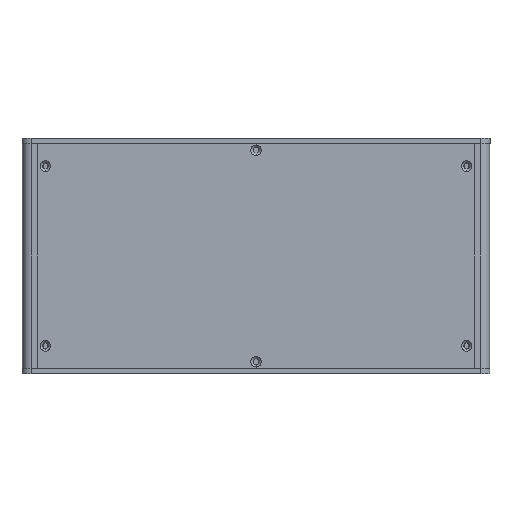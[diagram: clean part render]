
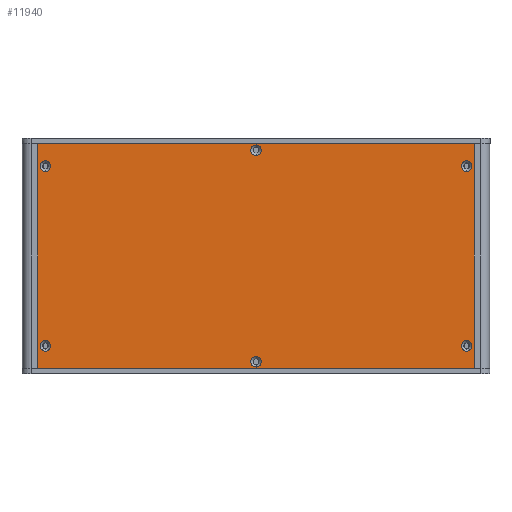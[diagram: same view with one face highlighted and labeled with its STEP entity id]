
A CAD part, front view. The second image highlights one B-rep face of the part: STEP entity #11940.
In plain terms, the highlighted planar face has unit normal (0, -1, 0) as drawn and (0, 1, 0) by its records, which use the part's own axes.
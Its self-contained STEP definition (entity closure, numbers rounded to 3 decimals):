
#111 = EDGE_CURVE ( 'NONE', #2191, #6935, #9642, .T. ) ;
#146 = ORIENTED_EDGE ( 'NONE', *, *, #111, .T. ) ;
#150 = VERTEX_POINT ( 'NONE', #3463 ) ;
#151 = DIRECTION ( 'NONE',  ( 0., -1., 0. ) ) ;
#170 = AXIS2_PLACEMENT_3D ( 'NONE', #10919, #595, #9823 ) ;
#177 = CIRCLE ( 'NONE', #1556, 2.8 ) ;
#346 = EDGE_CURVE ( 'NONE', #1609, #8473, #5801, .T. ) ;
#540 = DIRECTION ( 'NONE',  ( 0., 0., 1. ) ) ;
#583 = CIRCLE ( 'NONE', #8569, 2.8 ) ;
#595 = DIRECTION ( 'NONE',  ( 0., -1., 0. ) ) ;
#608 = CARTESIAN_POINT ( 'NONE',  ( -116.6, 0.75, -120. ) ) ;
#632 = DIRECTION ( 'NONE',  ( 0., -1., 0. ) ) ;
#657 = CIRCLE ( 'NONE', #7479, 2.8 ) ;
#671 = CARTESIAN_POINT ( 'NONE',  ( 112.5, 0.75, -14.8 ) ) ;
#676 = DIRECTION ( 'NONE',  ( 0., -1., 0. ) ) ;
#728 = VECTOR ( 'NONE', #7649, 1000. ) ;
#918 = CARTESIAN_POINT ( 'NONE',  ( 112.5, 0.75, -105.2 ) ) ;
#943 = CARTESIAN_POINT ( 'NONE',  ( 112.5, 0.75, -12. ) ) ;
#1085 = CARTESIAN_POINT ( 'NONE',  ( -112.5, 0.75, -110.8 ) ) ;
#1242 = EDGE_CURVE ( 'NONE', #6972, #9282, #10689, .T. ) ;
#1373 = VERTEX_POINT ( 'NONE', #608 ) ;
#1400 = VERTEX_POINT ( 'NONE', #671 ) ;
#1479 = VERTEX_POINT ( 'NONE', #1085 ) ;
#1483 = CARTESIAN_POINT ( 'NONE',  ( -116.6, 0.75, -120. ) ) ;
#1517 = EDGE_CURVE ( 'NONE', #3462, #7808, #3379, .T. ) ;
#1556 = AXIS2_PLACEMENT_3D ( 'NONE', #11326, #10407, #2030 ) ;
#1559 = DIRECTION ( 'NONE',  ( 0., 0., 1. ) ) ;
#1577 = EDGE_LOOP ( 'NONE', ( #3882, #6238 ) ) ;
#1609 = VERTEX_POINT ( 'NONE', #918 ) ;
#1729 = FACE_BOUND ( 'NONE', #1577, .T. ) ;
#2018 = EDGE_LOOP ( 'NONE', ( #7152, #8730 ) ) ;
#2030 = DIRECTION ( 'NONE',  ( 0., 0., 1. ) ) ;
#2155 = AXIS2_PLACEMENT_3D ( 'NONE', #1483, #5199, #10278 ) ;
#2191 = VERTEX_POINT ( 'NONE', #8478 ) ;
#2362 = DIRECTION ( 'NONE',  ( 0., 0., 1. ) ) ;
#2378 = EDGE_CURVE ( 'NONE', #6972, #1373, #5047, .T. ) ;
#2403 = ORIENTED_EDGE ( 'NONE', *, *, #346, .T. ) ;
#2430 = EDGE_CURVE ( 'NONE', #7808, #3462, #5290, .T. ) ;
#2510 = VERTEX_POINT ( 'NONE', #3406 ) ;
#2748 = DIRECTION ( 'NONE',  ( 0., -1., 0. ) ) ;
#2872 = EDGE_CURVE ( 'NONE', #1479, #5384, #657, .T. ) ;
#2886 = CARTESIAN_POINT ( 'NONE',  ( -112.5, 0.75, -9.2 ) ) ;
#2985 = CARTESIAN_POINT ( 'NONE',  ( 112.5, 0.75, -110.8 ) ) ;
#3180 = ORIENTED_EDGE ( 'NONE', *, *, #7224, .T. ) ;
#3215 = CARTESIAN_POINT ( 'NONE',  ( 0., 0.75, -116.5 ) ) ;
#3308 = FACE_OUTER_BOUND ( 'NONE', #7138, .T. ) ;
#3379 = CIRCLE ( 'NONE', #7858, 2.8 ) ;
#3394 = CARTESIAN_POINT ( 'NONE',  ( 116.6, 0.75, 0. ) ) ;
#3406 = CARTESIAN_POINT ( 'NONE',  ( 0., 0.75, -0.7 ) ) ;
#3462 = VERTEX_POINT ( 'NONE', #5752 ) ;
#3463 = CARTESIAN_POINT ( 'NONE',  ( 112.5, 0.75, -9.2 ) ) ;
#3537 = AXIS2_PLACEMENT_3D ( 'NONE', #4959, #151, #4730 ) ;
#3798 = AXIS2_PLACEMENT_3D ( 'NONE', #8775, #10733, #2362 ) ;
#3879 = LINE ( 'NONE', #6748, #8431 ) ;
#3882 = ORIENTED_EDGE ( 'NONE', *, *, #6026, .T. ) ;
#4061 = EDGE_CURVE ( 'NONE', #150, #1400, #5756, .T. ) ;
#4110 = DIRECTION ( 'NONE',  ( -1., 0., 0. ) ) ;
#4199 = CARTESIAN_POINT ( 'NONE',  ( 112.5, 0.75, -12. ) ) ;
#4237 = ORIENTED_EDGE ( 'NONE', *, *, #4663, .T. ) ;
#4654 = DIRECTION ( 'NONE',  ( 0., -1., 0. ) ) ;
#4663 = EDGE_CURVE ( 'NONE', #1373, #11021, #9484, .T. ) ;
#4730 = DIRECTION ( 'NONE',  ( 0., 0., 1. ) ) ;
#4858 = CARTESIAN_POINT ( 'NONE',  ( -112.5, 0.75, -12. ) ) ;
#4959 = CARTESIAN_POINT ( 'NONE',  ( 112.5, 0.75, -108. ) ) ;
#4962 = ORIENTED_EDGE ( 'NONE', *, *, #2430, .T. ) ;
#5047 = LINE ( 'NONE', #11529, #10959 ) ;
#5131 = EDGE_LOOP ( 'NONE', ( #2403, #3180 ) ) ;
#5142 = CARTESIAN_POINT ( 'NONE',  ( 0., 0.75, -3.5 ) ) ;
#5199 = DIRECTION ( 'NONE',  ( 0., 1., 0. ) ) ;
#5290 = CIRCLE ( 'NONE', #8602, 2.8 ) ;
#5384 = VERTEX_POINT ( 'NONE', #8208 ) ;
#5432 = EDGE_CURVE ( 'NONE', #9282, #11021, #3879, .T. ) ;
#5482 = CIRCLE ( 'NONE', #6263, 2.8 ) ;
#5497 = ORIENTED_EDGE ( 'NONE', *, *, #5926, .T. ) ;
#5752 = CARTESIAN_POINT ( 'NONE',  ( -112.5, 0.75, -14.8 ) ) ;
#5756 = CIRCLE ( 'NONE', #8882, 2.8 ) ;
#5801 = CIRCLE ( 'NONE', #3537, 2.8 ) ;
#5851 = ORIENTED_EDGE ( 'NONE', *, *, #2378, .T. ) ;
#5883 = AXIS2_PLACEMENT_3D ( 'NONE', #9044, #676, #6417 ) ;
#5926 = EDGE_CURVE ( 'NONE', #5384, #1479, #177, .T. ) ;
#5957 = VECTOR ( 'NONE', #7807, 1000. ) ;
#6026 = EDGE_CURVE ( 'NONE', #2510, #6291, #583, .T. ) ;
#6238 = ORIENTED_EDGE ( 'NONE', *, *, #9769, .T. ) ;
#6263 = AXIS2_PLACEMENT_3D ( 'NONE', #3215, #11533, #540 ) ;
#6291 = VERTEX_POINT ( 'NONE', #8617 ) ;
#6316 = EDGE_LOOP ( 'NONE', ( #5497, #11452 ) ) ;
#6363 = FACE_BOUND ( 'NONE', #8651, .T. ) ;
#6417 = DIRECTION ( 'NONE',  ( 0., 0., 1. ) ) ;
#6748 = CARTESIAN_POINT ( 'NONE',  ( -116.6, 0.75, 0. ) ) ;
#6935 = VERTEX_POINT ( 'NONE', #10848 ) ;
#6972 = VERTEX_POINT ( 'NONE', #8220 ) ;
#7129 = DIRECTION ( 'NONE',  ( 0., -1., 0. ) ) ;
#7138 = EDGE_LOOP ( 'NONE', ( #8635, #11818, #5851, #4237 ) ) ;
#7152 = ORIENTED_EDGE ( 'NONE', *, *, #4061, .T. ) ;
#7224 = EDGE_CURVE ( 'NONE', #8473, #1609, #10132, .T. ) ;
#7356 = AXIS2_PLACEMENT_3D ( 'NONE', #943, #4654, #8384 ) ;
#7384 = DIRECTION ( 'NONE',  ( 0., 0., 1. ) ) ;
#7479 = AXIS2_PLACEMENT_3D ( 'NONE', #11893, #9993, #1559 ) ;
#7649 = DIRECTION ( 'NONE',  ( 0., 0., 1. ) ) ;
#7807 = DIRECTION ( 'NONE',  ( 0., 0., 1. ) ) ;
#7808 = VERTEX_POINT ( 'NONE', #2886 ) ;
#7858 = AXIS2_PLACEMENT_3D ( 'NONE', #4858, #2748, #11181 ) ;
#7923 = DIRECTION ( 'NONE',  ( 0., -1., 0. ) ) ;
#7938 = EDGE_CURVE ( 'NONE', #1400, #150, #9115, .T. ) ;
#7951 = FACE_BOUND ( 'NONE', #10961, .T. ) ;
#8208 = CARTESIAN_POINT ( 'NONE',  ( -112.5, 0.75, -105.2 ) ) ;
#8220 = CARTESIAN_POINT ( 'NONE',  ( 116.6, 0.75, -120. ) ) ;
#8384 = DIRECTION ( 'NONE',  ( 0., 0., 1. ) ) ;
#8431 = VECTOR ( 'NONE', #4110, 1000. ) ;
#8473 = VERTEX_POINT ( 'NONE', #2985 ) ;
#8478 = CARTESIAN_POINT ( 'NONE',  ( 0., 0.75, -119.3 ) ) ;
#8569 = AXIS2_PLACEMENT_3D ( 'NONE', #5142, #632, #9797 ) ;
#8602 = AXIS2_PLACEMENT_3D ( 'NONE', #9881, #7129, #9942 ) ;
#8617 = CARTESIAN_POINT ( 'NONE',  ( 0., 0.75, -6.3 ) ) ;
#8635 = ORIENTED_EDGE ( 'NONE', *, *, #5432, .F. ) ;
#8651 = EDGE_LOOP ( 'NONE', ( #11478, #146 ) ) ;
#8730 = ORIENTED_EDGE ( 'NONE', *, *, #7938, .T. ) ;
#8775 = CARTESIAN_POINT ( 'NONE',  ( 0., 0.75, -116.5 ) ) ;
#8867 = ORIENTED_EDGE ( 'NONE', *, *, #1517, .T. ) ;
#8882 = AXIS2_PLACEMENT_3D ( 'NONE', #4199, #7923, #7384 ) ;
#9044 = CARTESIAN_POINT ( 'NONE',  ( 0., 0.75, -3.5 ) ) ;
#9115 = CIRCLE ( 'NONE', #7356, 2.8 ) ;
#9187 = FACE_BOUND ( 'NONE', #2018, .T. ) ;
#9282 = VERTEX_POINT ( 'NONE', #3394 ) ;
#9409 = CIRCLE ( 'NONE', #5883, 2.8 ) ;
#9442 = CARTESIAN_POINT ( 'NONE',  ( -116.6, 0.75, 0. ) ) ;
#9484 = LINE ( 'NONE', #9543, #728 ) ;
#9543 = CARTESIAN_POINT ( 'NONE',  ( -116.6, 0.75, -120. ) ) ;
#9591 = CARTESIAN_POINT ( 'NONE',  ( 116.6, 0.75, -120. ) ) ;
#9642 = CIRCLE ( 'NONE', #3798, 2.8 ) ;
#9769 = EDGE_CURVE ( 'NONE', #6291, #2510, #9409, .T. ) ;
#9797 = DIRECTION ( 'NONE',  ( 0., 0., 1. ) ) ;
#9823 = DIRECTION ( 'NONE',  ( 0., 0., 1. ) ) ;
#9881 = CARTESIAN_POINT ( 'NONE',  ( -112.5, 0.75, -12. ) ) ;
#9913 = FACE_BOUND ( 'NONE', #5131, .T. ) ;
#9942 = DIRECTION ( 'NONE',  ( 0., 0., 1. ) ) ;
#9993 = DIRECTION ( 'NONE',  ( 0., -1., 0. ) ) ;
#10032 = EDGE_CURVE ( 'NONE', #6935, #2191, #5482, .T. ) ;
#10132 = CIRCLE ( 'NONE', #170, 2.8 ) ;
#10278 = DIRECTION ( 'NONE',  ( 0., 0., 1. ) ) ;
#10407 = DIRECTION ( 'NONE',  ( 0., -1., 0. ) ) ;
#10689 = LINE ( 'NONE', #9591, #5957 ) ;
#10733 = DIRECTION ( 'NONE',  ( 0., -1., 0. ) ) ;
#10772 = PLANE ( 'NONE',  #2155 ) ;
#10848 = CARTESIAN_POINT ( 'NONE',  ( 0., 0.75, -113.7 ) ) ;
#10919 = CARTESIAN_POINT ( 'NONE',  ( 112.5, 0.75, -108. ) ) ;
#10959 = VECTOR ( 'NONE', #11718, 1000. ) ;
#10961 = EDGE_LOOP ( 'NONE', ( #4962, #8867 ) ) ;
#11021 = VERTEX_POINT ( 'NONE', #9442 ) ;
#11181 = DIRECTION ( 'NONE',  ( 0., 0., 1. ) ) ;
#11326 = CARTESIAN_POINT ( 'NONE',  ( -112.5, 0.75, -108. ) ) ;
#11452 = ORIENTED_EDGE ( 'NONE', *, *, #2872, .T. ) ;
#11478 = ORIENTED_EDGE ( 'NONE', *, *, #10032, .T. ) ;
#11529 = CARTESIAN_POINT ( 'NONE',  ( -116.6, 0.75, -120. ) ) ;
#11533 = DIRECTION ( 'NONE',  ( 0., -1., 0. ) ) ;
#11686 = FACE_BOUND ( 'NONE', #6316, .T. ) ;
#11718 = DIRECTION ( 'NONE',  ( -1., 0., 0. ) ) ;
#11818 = ORIENTED_EDGE ( 'NONE', *, *, #1242, .F. ) ;
#11893 = CARTESIAN_POINT ( 'NONE',  ( -112.5, 0.75, -108. ) ) ;
#11940 = ADVANCED_FACE ( 'NONE', ( #1729, #6363, #9187, #9913, #7951, #11686, #3308 ), #10772, .T. ) ;
